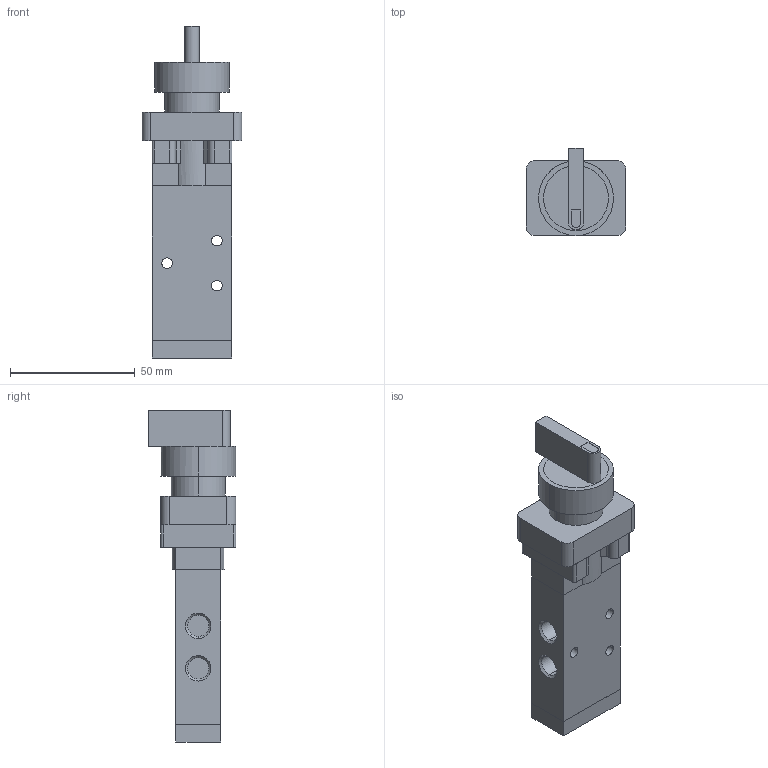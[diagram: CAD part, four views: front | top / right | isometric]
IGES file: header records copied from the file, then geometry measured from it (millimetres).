
Global section: file name: No Iges File Name specified; native system: AutoDesk Inventor R11.0; preprocessor: AutoDesk Inventor Iges Exporter R11.0; author: No Author specified; organization: No Organization specified; date: 20061219.114232; units: millimetre
Bounding box: 40 x 35.01 x 132.99 mm (x, y, z)
Volume: 77298 mm3; surface area: 18147.4 mm2
Topology: 1 solids, 1 shells, 110 faces, 280 edges, 182 vertices
Faces by surface type: plane 54, bspline 25, cylinder 19, revolution 12
